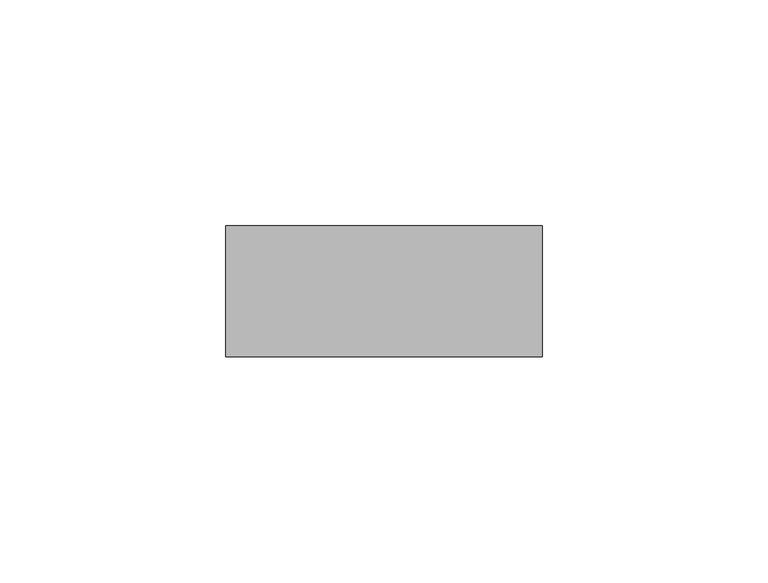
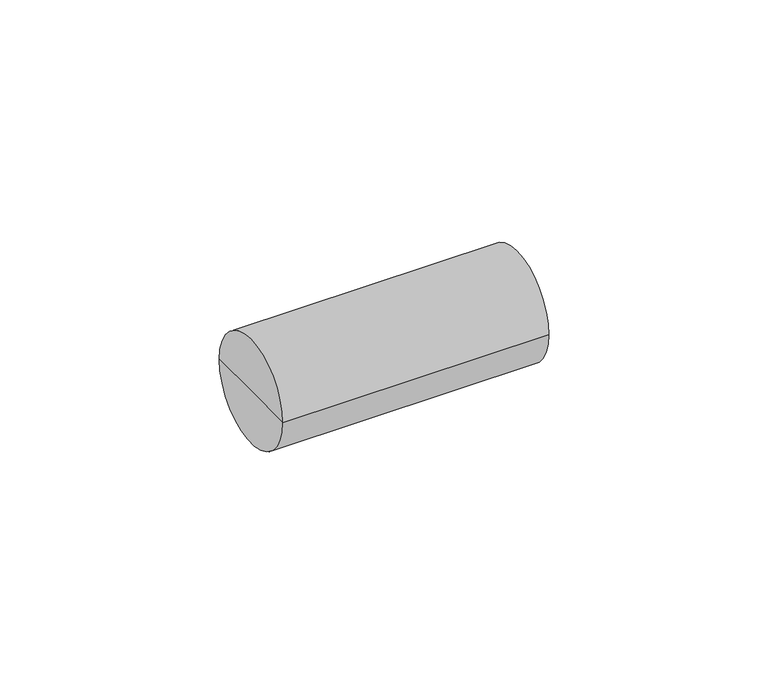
"""IFC4 building model written with IfcOpenShell, lengths in millimetres: cable carrier fitting geometry, Муфта_соед._для_труб : Муфта соед. для трубы 25мм (50шт)."""

from ifc_helpers import new_model, si_unit, frame, origin, place, context, project, spatial, circle_curve, source, transform, mapped, element, save
from ifc_brep_helpers import plane_surface, cylinder_surface, advanced_brep


def cable_carrier_fitting_914e6720(model_context):
    return source(origin(), model_context, "Body", "AdvancedBrep", [
        advanced_brep(
        [(-35.0, -14.5, 0.0), (-35.0, 14.5, 0.0), (35.0, 14.5, 0.0), (35.0, -14.5, 0.0), (-35.0, 0.0, 0.0), (35.0, 0.0, 0.0)],
        [
            (0, 1, circle_curve(frame((-35.0, 0.0, 0.0), z_axis=(1.0, 0.0, 0.0), x_axis=(0.0, 1.0, 0.0)), 14.5)),
            (1, 2),
            (2, 3, circle_curve(frame((35.0, 0.0, 0.0), z_axis=(-1.0, 0.0, 0.0), x_axis=(0.0, 1.0, 0.0)), 14.5)),
            (3, 0),
            (1, 0, circle_curve(frame((-35.0, 0.0, 0.0), z_axis=(1.0, 0.0, 0.0), x_axis=(0.0, 1.0, 0.0)), 14.5)),
            (3, 2, circle_curve(frame((35.0, 0.0, 0.0), z_axis=(-1.0, 0.0, 0.0), x_axis=(0.0, 1.0, 0.0)), 14.5)),
            (4, 1),
            (0, 4),
            (2, 5),
            (5, 3),
        ],
        [
            cylinder_surface(frame((1960.0, 0.0, 0.0), z_axis=(-1.0, 0.0, 0.0), x_axis=(0.0, 1.0, 0.0)), 14.5),
            plane_surface(frame((-35.0, 0.0, 0.0), z_axis=(-1.0, 0.0, 0.0), x_axis=(0.0, 1.0, 0.0))),
            plane_surface(frame((35.0, 0.0, 0.0), z_axis=(1.0, 0.0, 0.0), x_axis=(0.0, 1.0, 0.0))),
        ],
        [
            (0, [[1, 2, 3, 4]]),
            (0, [[5, -4, 6, -2]]),
            (1, [[7, -1, 8]]),
            (1, [[-8, -5, -7]]),
            (2, [[-3, 9, 10]]),
            (2, [[-6, -10, -9]]),
        ],
    ),
    ])


if __name__ == "__main__":
    model = new_model("IFC4")
    model_context = context("Model", 3, world=origin())
    ifc_project = project(units=[si_unit("LENGTHUNIT", "METRE", prefix="MILLI")], contexts=[model_context])
    site = spatial("IfcSite", under=ifc_project)
    building = spatial("IfcBuilding", under=site)
    placement = place(None, origin())
    cable_carrier_fitting_shape = cable_carrier_fitting_914e6720(model_context)
    element("IfcCableCarrierFitting", 1, ObjectType="Муфта_соед._для_труб : Муфта соед. для трубы 25мм (50шт)", at=placement, inside=building, context=model_context, shape_type="MappedRepresentation", body=[
        mapped(cable_carrier_fitting_shape, transform((0.0, 0.0, 0.0), x_axis=(1.0, 0.0, 0.0), y_axis=(0.0, 1.0, 0.0), z_axis=(0.0, 0.0, 1.0))),
    ])
    save(model, "model.ifc")
